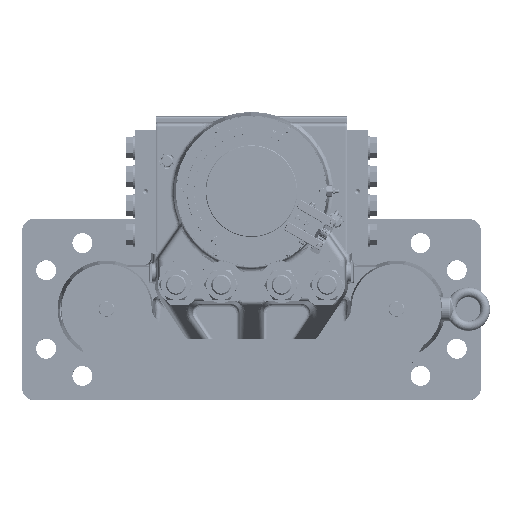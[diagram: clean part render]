
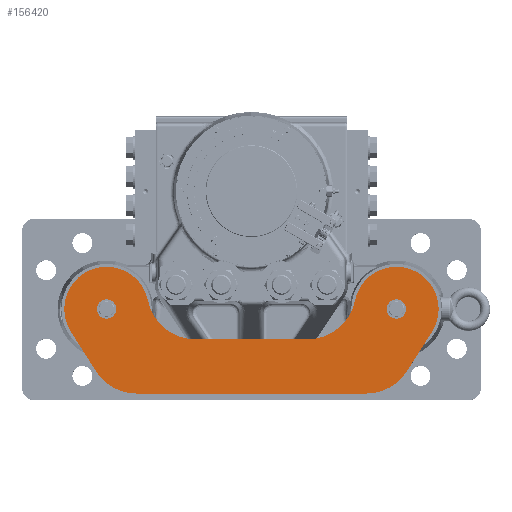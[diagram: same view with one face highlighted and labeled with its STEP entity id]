
A CAD part, top view. The second image highlights one B-rep face of the part: STEP entity #156420.
In plain terms, the highlighted planar face has unit normal (0, 0, 1).
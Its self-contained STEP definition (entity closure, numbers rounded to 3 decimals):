
#119689=CARTESIAN_POINT('',(-286.969,-120.,443.));
#119690=DIRECTION('',(0.,0.,1.));
#119691=DIRECTION('',(0.,-1.,0.));
#119692=AXIS2_PLACEMENT_3D('',#119689,#119690,#119691);
#119697=CARTESIAN_POINT('',(-140.,-150.,443.));
#119698=DIRECTION('',(0.,0.,-1.));
#119699=DIRECTION('',(-0.98,0.2,0.));
#119700=AXIS2_PLACEMENT_3D('',#119697,#119698,#119699);
#119705=CARTESIAN_POINT('',(-140.,-150.,443.));
#119706=DIRECTION('',(0.,0.,-1.));
#119707=DIRECTION('',(1.,0.,0.));
#119708=AXIS2_PLACEMENT_3D('',#119705,#119706,#119707);
#119713=DIRECTION('',(-0.537,-0.844,0.));
#119714=VECTOR('',#119713,77.46);
#119715=CARTESIAN_POINT('',(-80.929,-187.559,443.));
#119716=LINE('',#119715,#119714);
#119720=CARTESIAN_POINT('',(-190.,-210.,443.));
#119721=DIRECTION('',(0.,0.,-1.));
#119722=DIRECTION('',(0.844,-0.537,0.));
#119723=AXIS2_PLACEMENT_3D('',#119720,#119721,#119722);
#119728=DIRECTION('',(-1.,0.,0.));
#119729=VECTOR('',#119728,380.);
#119730=CARTESIAN_POINT('',(-190.,-290.,443.));
#119731=LINE('',#119730,#119729);
#119735=CARTESIAN_POINT('',(-570.,-210.,443.));
#119736=DIRECTION('',(0.,0.,-1.));
#119737=DIRECTION('',(0.,-1.,0.));
#119738=AXIS2_PLACEMENT_3D('',#119735,#119736,#119737);
#119743=DIRECTION('',(-0.537,0.844,0.));
#119744=VECTOR('',#119743,77.46);
#119745=CARTESIAN_POINT('',(-637.509,-252.924,443.));
#119746=LINE('',#119745,#119744);
#119750=CARTESIAN_POINT('',(-620.,-150.,443.));
#119751=DIRECTION('',(0.,0.,-1.));
#119752=DIRECTION('',(-0.844,-0.537,0.));
#119753=AXIS2_PLACEMENT_3D('',#119750,#119751,#119752);
#119758=CARTESIAN_POINT('',(-620.,-150.,443.));
#119759=DIRECTION('',(0.,0.,-1.));
#119760=DIRECTION('',(-1.,0.,0.));
#119761=AXIS2_PLACEMENT_3D('',#119758,#119759,#119760);
#119766=CARTESIAN_POINT('',(-473.031,-120.,443.));
#119767=DIRECTION('',(0.,0.,1.));
#119768=DIRECTION('',(-0.98,-0.2,0.));
#119769=AXIS2_PLACEMENT_3D('',#119766,#119767,#119768);
#119774=DIRECTION('',(1.,0.,0.));
#119775=VECTOR('',#119774,186.061);
#119776=CARTESIAN_POINT('',(-473.031,-200.,443.));
#119777=LINE('',#119776,#119775);
#119781=CARTESIAN_POINT('',(-140.,-150.,443.));
#119782=DIRECTION('',(0.,0.,1.));
#119783=DIRECTION('',(-1.,0.,0.));
#119784=AXIS2_PLACEMENT_3D('',#119781,#119782,#119783);
#119789=CARTESIAN_POINT('',(-140.,-150.,443.));
#119790=DIRECTION('',(0.,0.,1.));
#119791=DIRECTION('',(1.,0.,0.));
#119792=AXIS2_PLACEMENT_3D('',#119789,#119790,#119791);
#119797=CARTESIAN_POINT('',(-620.,-150.,443.));
#119798=DIRECTION('',(0.,0.,1.));
#119799=DIRECTION('',(1.,0.,0.));
#119800=AXIS2_PLACEMENT_3D('',#119797,#119798,#119799);
#119805=CARTESIAN_POINT('',(-620.,-150.,443.));
#119806=DIRECTION('',(0.,0.,1.));
#119807=DIRECTION('',(-1.,0.,0.));
#119808=AXIS2_PLACEMENT_3D('',#119805,#119806,#119807);
#145672=CARTESIAN_POINT('',(-286.969,-200.,443.));
#145673=CARTESIAN_POINT('',(-208.586,-136.,443.));
#145674=VERTEX_POINT('',#145672);
#145675=VERTEX_POINT('',#145673);
#145676=CARTESIAN_POINT('',(-70.,-150.,443.));
#145677=VERTEX_POINT('',#145676);
#145678=CARTESIAN_POINT('',(-80.929,-187.559,443.));
#145679=VERTEX_POINT('',#145678);
#145680=CARTESIAN_POINT('',(-122.491,-252.924,443.));
#145681=VERTEX_POINT('',#145680);
#145682=CARTESIAN_POINT('',(-190.,-290.,443.));
#145683=VERTEX_POINT('',#145682);
#145684=CARTESIAN_POINT('',(-570.,-290.,443.));
#145685=VERTEX_POINT('',#145684);
#145686=CARTESIAN_POINT('',(-637.509,-252.924,443.));
#145687=VERTEX_POINT('',#145686);
#145688=CARTESIAN_POINT('',(-679.071,-187.559,443.));
#145689=VERTEX_POINT('',#145688);
#145690=CARTESIAN_POINT('',(-690.,-150.,443.));
#145691=VERTEX_POINT('',#145690);
#145692=CARTESIAN_POINT('',(-551.414,-136.,443.));
#145693=VERTEX_POINT('',#145692);
#145694=CARTESIAN_POINT('',(-473.031,-200.,443.));
#145695=VERTEX_POINT('',#145694);
#145696=CARTESIAN_POINT('',(-156.,-150.,443.));
#145697=CARTESIAN_POINT('',(-124.,-150.,443.));
#145698=VERTEX_POINT('',#145696);
#145699=VERTEX_POINT('',#145697);
#145700=CARTESIAN_POINT('',(-604.,-150.,443.));
#145701=CARTESIAN_POINT('',(-636.,-150.,443.));
#145702=VERTEX_POINT('',#145700);
#145703=VERTEX_POINT('',#145701);
#156378=CARTESIAN_POINT('',(-286.969,-120.,443.));
#156379=DIRECTION('',(0.,0.,-1.));
#156380=DIRECTION('',(1.,0.,0.));
#156381=AXIS2_PLACEMENT_3D('',#156378,#156379,#156380);
#156382=PLANE('',#156381);
#156383=ORIENTED_EDGE('',*,*,#156368,.T.);
#156385=ORIENTED_EDGE('',*,*,#156384,.T.);
#156387=ORIENTED_EDGE('',*,*,#156386,.T.);
#156389=ORIENTED_EDGE('',*,*,#156388,.T.);
#156391=ORIENTED_EDGE('',*,*,#156390,.T.);
#156393=ORIENTED_EDGE('',*,*,#156392,.T.);
#156395=ORIENTED_EDGE('',*,*,#156394,.T.);
#156397=ORIENTED_EDGE('',*,*,#156396,.T.);
#156399=ORIENTED_EDGE('',*,*,#156398,.T.);
#156401=ORIENTED_EDGE('',*,*,#156400,.T.);
#156403=ORIENTED_EDGE('',*,*,#156402,.T.);
#156405=ORIENTED_EDGE('',*,*,#156404,.T.);
#156406=EDGE_LOOP('',(#156383,#156385,#156387,#156389,#156391,#156393,#156395,
#156397,#156399,#156401,#156403,#156405));
#156407=FACE_OUTER_BOUND('',#156406,.F.);
#156409=ORIENTED_EDGE('',*,*,#156408,.T.);
#156411=ORIENTED_EDGE('',*,*,#156410,.T.);
#156412=EDGE_LOOP('',(#156409,#156411));
#156413=FACE_BOUND('',#156412,.F.);
#156415=ORIENTED_EDGE('',*,*,#156414,.T.);
#156417=ORIENTED_EDGE('',*,*,#156416,.T.);
#156418=EDGE_LOOP('',(#156415,#156417));
#156419=FACE_BOUND('',#156418,.F.);
#156420=ADVANCED_FACE('',(#156407,#156413,#156419),#156382,.F.);
#119693=CIRCLE('',#119692,80.);
#119701=CIRCLE('',#119700,70.);
#119709=CIRCLE('',#119708,70.);
#119724=CIRCLE('',#119723,80.);
#119739=CIRCLE('',#119738,80.);
#119754=CIRCLE('',#119753,70.);
#119762=CIRCLE('',#119761,70.);
#119770=CIRCLE('',#119769,80.);
#119785=CIRCLE('',#119784,16.);
#119793=CIRCLE('',#119792,16.);
#119801=CIRCLE('',#119800,16.);
#119809=CIRCLE('',#119808,16.);
#156368=EDGE_CURVE('',#145674,#145675,#119693,.T.);
#156384=EDGE_CURVE('',#145675,#145677,#119701,.T.);
#156386=EDGE_CURVE('',#145677,#145679,#119709,.T.);
#156388=EDGE_CURVE('',#145679,#145681,#119716,.T.);
#156390=EDGE_CURVE('',#145681,#145683,#119724,.T.);
#156392=EDGE_CURVE('',#145683,#145685,#119731,.T.);
#156394=EDGE_CURVE('',#145685,#145687,#119739,.T.);
#156396=EDGE_CURVE('',#145687,#145689,#119746,.T.);
#156398=EDGE_CURVE('',#145689,#145691,#119754,.T.);
#156400=EDGE_CURVE('',#145691,#145693,#119762,.T.);
#156402=EDGE_CURVE('',#145693,#145695,#119770,.T.);
#156404=EDGE_CURVE('',#145695,#145674,#119777,.T.);
#156408=EDGE_CURVE('',#145698,#145699,#119785,.T.);
#156410=EDGE_CURVE('',#145699,#145698,#119793,.T.);
#156414=EDGE_CURVE('',#145702,#145703,#119801,.T.);
#156416=EDGE_CURVE('',#145703,#145702,#119809,.T.);
